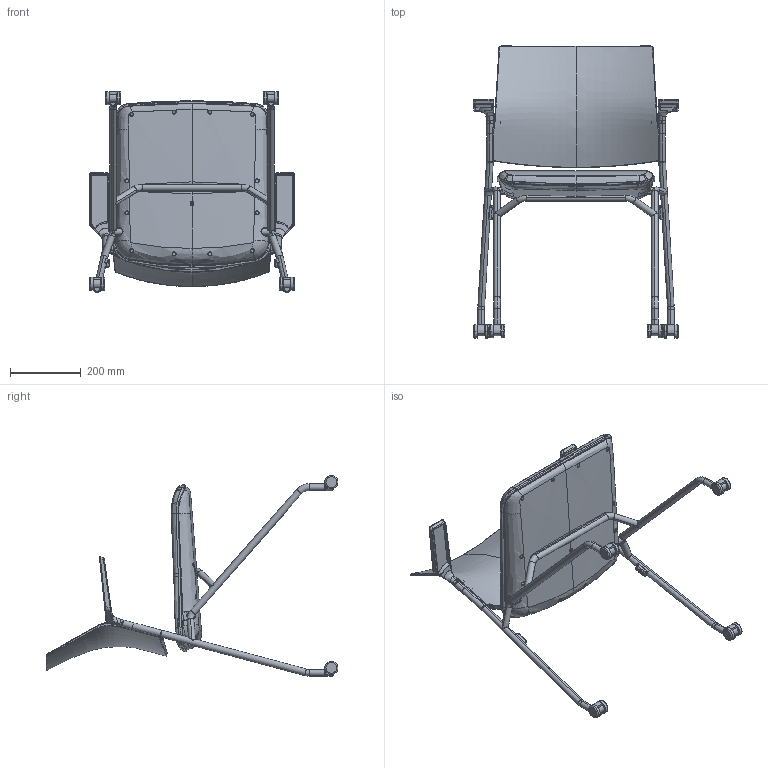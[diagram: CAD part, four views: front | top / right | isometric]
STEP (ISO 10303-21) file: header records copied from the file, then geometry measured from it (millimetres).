
FILE_DESCRIPTION (( 'STEP AP203' ), '1' );
FILE_NAME ('11058-WA,Tuck Nester Arm Poly Back Upholstered Seat, Rev A.STEP', '2019-01-29T20:59:21', ( '' ), ( '' ), 'SwSTEP 2.0', 'SolidWorks 2018', '' );
FILE_SCHEMA (( 'CONFIG_CONTROL_DESIGN' ));
Length unit declared in the file: inch
Products named in the file (1): 11058-WA,Tuck Nester Arm Poly Back Upholstered Seat, Rev A
Bounding box: 578.54 x 822.76 x 566.05 mm (x, y, z)
Surface area: 1544459.1 mm2 (no closed solid volume)
Topology: 0 solids, 55 shells, 651 faces, 2114 edges, 1459 vertices
Faces by surface type: bspline 320, cylinder 151, plane 83, cone 63, torus 30, sphere 4
Entity records: 76054 total; most frequent: CARTESIAN_POINT 61189, ORIENTED_EDGE 3330, DIRECTION 2134, EDGE_CURVE 2111, VERTEX_POINT 1459, B_SPLINE_CURVE_WITH_KNOTS 1100, AXIS2_PLACEMENT_3D 893, EDGE_LOOP 701
